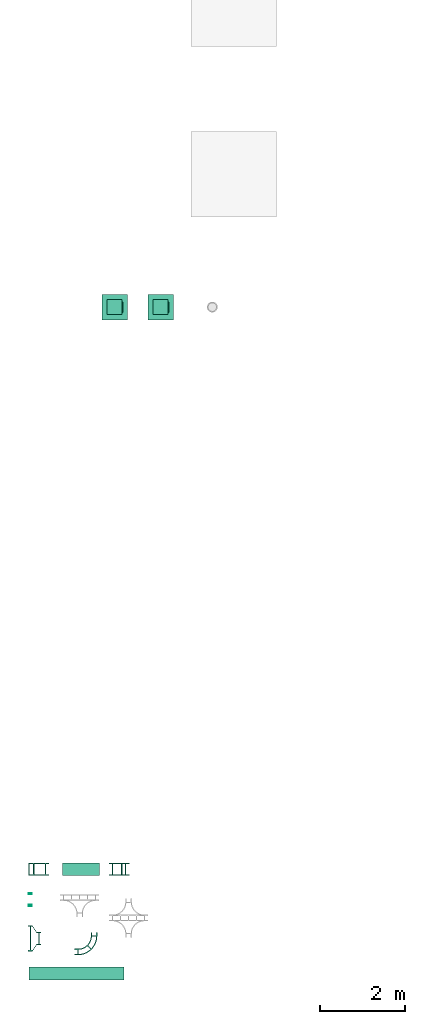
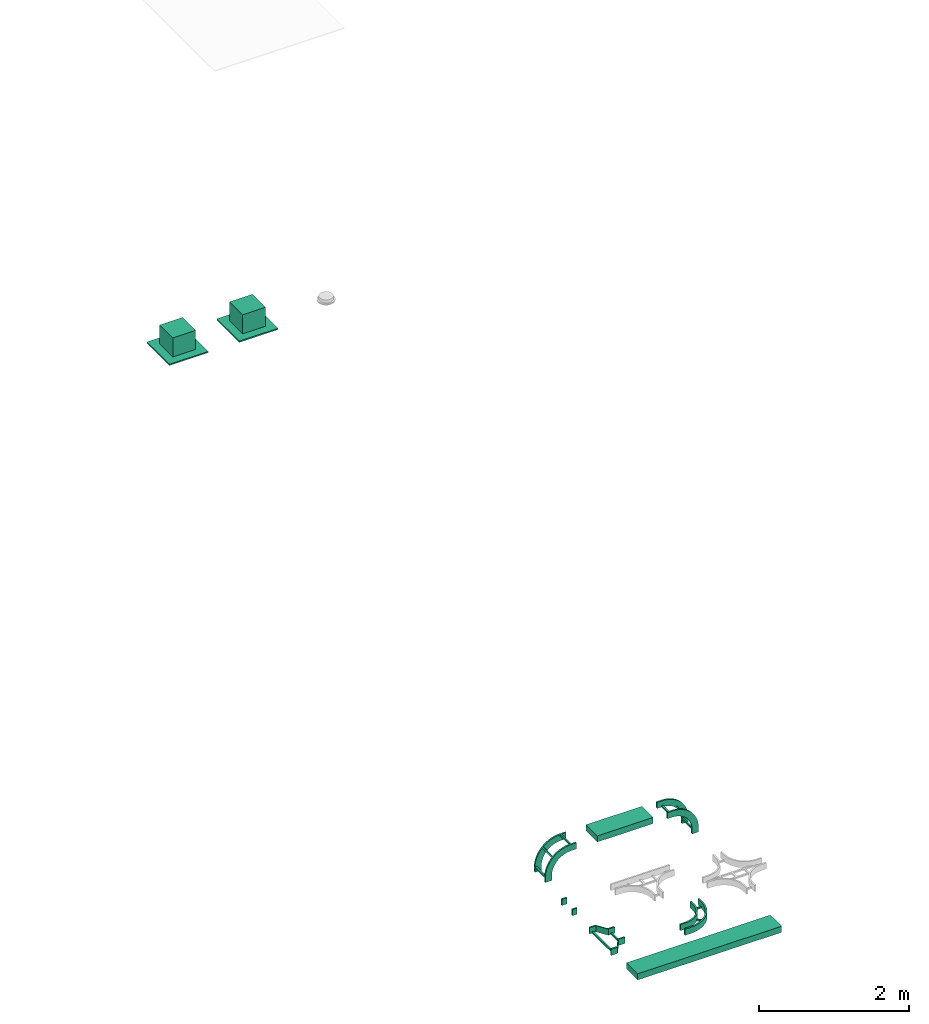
# One storey, part 11 of 14: 5 flow fittings, 2 flow segments, 2 flow terminals.
"""IFC2X3 building model written with IfcOpenShell, lengths in millimetres."""

from ifc_helpers import new_model, entity, si_unit, converted_unit, derived_unit, direction, frame, frame_2d, origin, origin_2d_with_axis, place, context, subcontext, project, spatial, polyline, circle_curve, parameter, trimmed, segment, composite_curve, rectangle, circle, outline, extrude, source, transform, mapped, type_object, type_shapes, element, save


model = new_model("IFC2X3")

# Units and contexts
model_context = context("Model", 3, precision=0.01, world=origin(), true_north=direction((6.12303176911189e-17, 1.0)))
context_of_model = context(None, 3, precision=0.01, world=origin(), true_north=direction((6.12303176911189e-17, 1.0)))
body_context = subcontext(model_context, "Body", "Model", "MODEL_VIEW")
ifc_project = project(units=[si_unit("LENGTHUNIT", "METRE", prefix="MILLI"), si_unit("AREAUNIT", "SQUARE_METRE"), si_unit("VOLUMEUNIT", "CUBIC_METRE"), converted_unit("PLANEANGLEUNIT", "DEGREE", entity("IfcRatioMeasure", 0.0174532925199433), si_unit("PLANEANGLEUNIT", "RADIAN"), dimensions=[0, 0, 0, 0, 0, 0, 0]), si_unit("MASSUNIT", "GRAM", prefix="KILO"), si_unit("TIMEUNIT", "SECOND"), si_unit("FREQUENCYUNIT", "HERTZ"), si_unit("THERMODYNAMICTEMPERATUREUNIT", "KELVIN"), derived_unit("THERMALTRANSMITTANCEUNIT", [(si_unit("MASSUNIT", "GRAM", prefix="KILO"), 1), (si_unit("THERMODYNAMICTEMPERATUREUNIT", "KELVIN"), -1), (si_unit("TIMEUNIT", "SECOND"), -3)]), derived_unit("VOLUMETRICFLOWRATEUNIT", [(si_unit("LENGTHUNIT", "METRE"), 3), (si_unit("TIMEUNIT", "SECOND"), -1)]), si_unit("ELECTRICCURRENTUNIT", "AMPERE"), si_unit("ELECTRICVOLTAGEUNIT", "VOLT"), si_unit("POWERUNIT", "WATT")], contexts=[model_context, context_of_model])

# Site, building, storey
site_placement = place(None, origin())
site = spatial("IfcSite", under=ifc_project, at=site_placement, Name="Surface", CompositionType="ELEMENT")
building_placement = place(site_placement, origin())
building = spatial("IfcBuilding", under=site, at=building_placement, CompositionType="ELEMENT")
storey_placement = place(building_placement, origin())
storey = spatial("IfcBuildingStorey", under=building, at=storey_placement, Name="00_begane grond", CompositionType="ELEMENT", Elevation=0.0)

# Flow terminal
air_terminal_type_1 = type_object("IfcAirTerminalType", Name="afvoer_plafondrooster_kanaaldiameter_250", PredefinedType="NOTDEFINED")
shared_shape_1 = source(origin(), body_context, "Body", "SweptSolid", [
    extrude(circle(Radius=125.0, at=frame_2d((3.80355707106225e-17, -2.03037586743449e-13), x_axis=(1.0, 0.0))), frame((175.0, 0.0, 175.0), z_axis=(1.0, 0.0, 0.0), x_axis=(0.0, 1.0, 0.0)), (0.0, 0.0, 1.0), 20.0000000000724),
    extrude(rectangle(XDim=350.0, YDim=350.0, at=origin_2d_with_axis()), frame((0.0, 0.0, 20.0), z_axis=(0.0, 0.0, 1.0), x_axis=(-1.0, 0.0, 0.0)), (0.0, 0.0, 1.0), 310.000000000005),
    extrude(rectangle(XDim=599.999999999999, YDim=600.000000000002, at=origin_2d_with_axis()), frame((0.0, 0.0, 0.0), z_axis=(0.0, 0.0, 1.0), x_axis=(-1.0, 0.0, 0.0)), (0.0, 0.0, 1.0), 19.9999999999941),
])
type_shapes(air_terminal_type_1, [shared_shape_1])
flow_terminal_1_placement = place(storey_placement, frame((2213.50653893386, -31370.8951915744, 0.0)))
element("IfcFlowTerminal", 1, at=flow_terminal_1_placement, inside=storey, type_object=air_terminal_type_1, Name="57_AT_plafondrooster_afv_rond_kanaal_FB:afvoer_plafondrooster_kanaaldiameter_250", ObjectType="afvoer_plafondrooster_kanaaldiameter_250", context=body_context, shape_type="MappedRepresentation", body=[
    mapped(shared_shape_1, transform((0.0, 0.0, 0.0), scale=1.0)),
])

# Flow segment
cable_carrier_segment_type_1 = type_object("IfcCableCarrierSegmentType", Name="Cable Tray with Fittings:61_CT_kabelgoot_open", PredefinedType="NOTDEFINED")
flow_segment_1_placement = place(storey_placement, frame((1000.0, -44678.0962466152, 442.420381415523)))
element("IfcFlowSegment", 2, at=flow_segment_1_placement, inside=storey, type_object=cable_carrier_segment_type_1, Name="Cable Tray with Fittings:61_CT_kabelgoot_open", ObjectType="Cable Tray with Fittings:61_CT_kabelgoot_open", context=body_context, shape_type="SweptSolid", body=[
    extrude(rectangle(XDim=860.0, YDim=300.000000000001, at=frame_2d((-5.6843418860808e-14, 0.0), x_axis=(1.0, 0.0))), frame((430.0, 150.0, 0.0)), (0.0, 0.0, 1.0), 100.0),
])

# Flow fittings
cable_carrier_fitting_type_1 = type_object("IfcCableCarrierFittingType", Name="bocht verticaal buiten, standaard", PredefinedType="NOTDEFINED")
shared_shape_2 = source(origin(), body_context, "Body", "SweptSolid", [
    extrude(rectangle(XDim=25.3999999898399, YDim=25.39999998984, at=frame_2d((0.0, 3.37507799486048e-14), x_axis=(1.0, 0.0))), frame((-37.3000000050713, -350.0, -124.600000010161)), (0.0, 0.0, 1.0), 249.20000002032),
    extrude(rectangle(XDim=25.3999999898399, YDim=25.39999998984, at=frame_2d((0.0, -1.24344978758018e-14), x_axis=(1.0, 0.0))), frame((-128.88770952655, -128.887709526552, -124.600000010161), z_axis=(0.0, 0.0, 1.0), x_axis=(0.707106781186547, 0.707106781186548, 0.0)), (0.0, 0.0, 1.0), 249.20000002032),
    extrude(rectangle(XDim=25.3999999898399, YDim=25.3999999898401, at=frame_2d((-1.77635683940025e-15, 3.37507799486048e-14), x_axis=(1.0, 0.0))), frame((-350.0, -37.3000000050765, -124.600000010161), z_axis=(0.0, 0.0, 1.0), x_axis=(0.0, -1.0, 0.0)), (0.0, 0.0, 1.0), 249.20000002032),
    extrude(outline(composite_curve([segment(polyline([(-245.0, -235.0), (-145.0, -235.0)]), True, "CONTINUOUS"), segment(polyline([(-145.0, -235.0), (-145.0, -155.0)]), True, "CONTINUOUS"), segment(trimmed(circle_curve(frame_2d((155.0, -155.0), x_axis=(-1.0, 0.0)), 300.0), [parameter(270.0)], [parameter(0.0)], True, "PARAMETER"), False, "CONTINUOUS"), segment(polyline([(155.0, 145.0), (235.0, 145.0)]), True, "CONTINUOUS"), segment(polyline([(235.0, 145.0), (235.0, 245.0)]), True, "CONTINUOUS"), segment(polyline([(235.0, 245.0), (155.0, 245.0)]), True, "CONTINUOUS"), segment(trimmed(circle_curve(frame_2d((155.0, -155.0), x_axis=(-1.0, 0.0)), 400.0), [parameter(270.0)], [parameter(0.0)], True, "PARAMETER"), True, "CONTINUOUS"), segment(polyline([(-245.0, -155.0), (-245.0, -235.0)]), True, "CONTINUOUS")], self_intersect=False)), frame((-195.0, -195.0, -150.0), z_axis=(0.0, 0.0, 1.0), x_axis=(0.0, -1.0, 0.0)), (0.0, 0.0, 1.0), 25.3999999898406),
    extrude(outline(composite_curve([segment(polyline([(-245.0, -235.0), (-145.0, -235.0)]), True, "CONTINUOUS"), segment(polyline([(-145.0, -235.0), (-145.0, -155.0)]), True, "CONTINUOUS"), segment(trimmed(circle_curve(frame_2d((155.0, -155.0), x_axis=(-1.0, 0.0)), 300.0), [parameter(270.0)], [parameter(0.0)], True, "PARAMETER"), False, "CONTINUOUS"), segment(polyline([(155.0, 145.0), (235.0, 145.0)]), True, "CONTINUOUS"), segment(polyline([(235.0, 145.0), (235.0, 245.0)]), True, "CONTINUOUS"), segment(polyline([(235.0, 245.0), (155.0, 245.0)]), True, "CONTINUOUS"), segment(trimmed(circle_curve(frame_2d((155.0, -155.0), x_axis=(-1.0, 0.0)), 400.0), [parameter(270.0)], [parameter(0.0)], True, "PARAMETER"), True, "CONTINUOUS"), segment(polyline([(-245.0, -155.0), (-245.0, -235.0)]), True, "CONTINUOUS")], self_intersect=False)), frame((-195.0, -195.0, 124.600000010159), z_axis=(0.0, 0.0, 1.0), x_axis=(0.0, -1.0, 0.0)), (0.0, 0.0, 1.0), 25.3999999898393),
])
type_shapes(cable_carrier_fitting_type_1, [shared_shape_2])
flow_fitting_1_placement = place(storey_placement, frame((2510.14957118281, -44528.0962466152, 492.420381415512), z_axis=(0.0, -1.0, 0.0), x_axis=(1.0, 0.0, 0.0)))
element("IfcFlowFitting", 3, at=flow_fitting_1_placement, inside=storey, type_object=cable_carrier_fitting_type_1, Name="61_CTF_kabelgoot_open_bocht_verticaal_buiten:bocht verticaal buiten, standaard", ObjectType="bocht verticaal buiten, standaard", context=body_context, shape_type="MappedRepresentation", body=[
    mapped(shared_shape_2, transform((0.0, 0.0, 0.0), scale=1.0)),
])
cable_carrier_fitting_type_2 = type_object("IfcCableCarrierFittingType", Name="bocht verticaal binnen, standaard", PredefinedType="NOTDEFINED")
shared_shape_3 = source(origin(), body_context, "Body", "SweptSolid", [
    extrude(rectangle(XDim=25.3999999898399, YDim=25.39999998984, at=origin_2d_with_axis()), frame((37.3000000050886, -350.0, -124.600000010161)), (0.0, 0.0, 1.0), 249.20000002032),
    extrude(rectangle(XDim=25.3999999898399, YDim=25.39999998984, at=frame_2d((7.105427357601e-15, -1.24344978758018e-14), x_axis=(1.0, 0.0))), frame((-76.1375436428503, -76.1375436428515, -124.600000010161), z_axis=(0.0, 0.0, 1.0), x_axis=(0.707106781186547, 0.707106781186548, 0.0)), (0.0, 0.0, 1.0), 249.20000002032),
    extrude(rectangle(XDim=25.3999999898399, YDim=25.3999999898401, at=frame_2d((0.0, 3.37507799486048e-14), x_axis=(1.0, 0.0))), frame((-350.0, 37.3000000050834, -124.600000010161), z_axis=(0.0, 0.0, 1.0), x_axis=(0.0, -1.0, 0.0)), (0.0, 0.0, 1.0), 249.20000002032),
    extrude(outline(composite_curve([segment(polyline([(-245.0, -235.0), (-145.0, -235.0)]), True, "CONTINUOUS"), segment(polyline([(-145.0, -235.0), (-145.0, -155.0)]), True, "CONTINUOUS"), segment(trimmed(circle_curve(frame_2d((155.0, -155.0), x_axis=(-1.0, 0.0)), 300.0), [parameter(270.0)], [parameter(0.0)], True, "PARAMETER"), False, "CONTINUOUS"), segment(polyline([(155.0, 145.0), (235.0, 145.0)]), True, "CONTINUOUS"), segment(polyline([(235.0, 145.0), (235.0, 245.0)]), True, "CONTINUOUS"), segment(polyline([(235.0, 245.0), (155.0, 245.0)]), True, "CONTINUOUS"), segment(trimmed(circle_curve(frame_2d((155.0, -155.0), x_axis=(-1.0, 0.0)), 400.0), [parameter(270.0)], [parameter(0.0)], True, "PARAMETER"), True, "CONTINUOUS"), segment(polyline([(-245.0, -155.0), (-245.0, -235.0)]), True, "CONTINUOUS")], self_intersect=False)), frame((-195.0, -195.0, -150.0), z_axis=(0.0, 0.0, 1.0), x_axis=(0.0, -1.0, 0.0)), (0.0, 0.0, 1.0), 25.3999999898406),
    extrude(outline(composite_curve([segment(polyline([(-245.0, -235.0), (-145.0, -235.0)]), True, "CONTINUOUS"), segment(polyline([(-145.0, -235.0), (-145.0, -155.0)]), True, "CONTINUOUS"), segment(trimmed(circle_curve(frame_2d((155.0, -155.0), x_axis=(-1.0, 0.0)), 300.0), [parameter(270.0)], [parameter(0.0)], True, "PARAMETER"), False, "CONTINUOUS"), segment(polyline([(155.0, 145.0), (235.0, 145.0)]), True, "CONTINUOUS"), segment(polyline([(235.0, 145.0), (235.0, 245.0)]), True, "CONTINUOUS"), segment(polyline([(235.0, 245.0), (155.0, 245.0)]), True, "CONTINUOUS"), segment(trimmed(circle_curve(frame_2d((155.0, -155.0), x_axis=(-1.0, 0.0)), 400.0), [parameter(270.0)], [parameter(0.0)], True, "PARAMETER"), True, "CONTINUOUS"), segment(polyline([(-245.0, -155.0), (-245.0, -235.0)]), True, "CONTINUOUS")], self_intersect=False)), frame((-195.0, -195.0, 124.600000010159), z_axis=(0.0, 0.0, 1.0), x_axis=(0.0, -1.0, 0.0)), (0.0, 0.0, 1.0), 25.3999999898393),
])
type_shapes(cable_carrier_fitting_type_2, [shared_shape_3])
flow_fitting_2_placement = place(storey_placement, frame((247.46114396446, -44528.0962466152, 492.420381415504), z_axis=(0.0, 1.0, 0.0), x_axis=(-1.0, 0.0, 0.0)))
element("IfcFlowFitting", 4, at=flow_fitting_2_placement, inside=storey, type_object=cable_carrier_fitting_type_2, Name="61_CTF_kabelgoot_open_bocht_verticaal_binnen:bocht verticaal binnen, standaard", ObjectType="bocht verticaal binnen, standaard", context=body_context, shape_type="MappedRepresentation", body=[
    mapped(shared_shape_3, transform((0.0, 0.0, 0.0), scale=1.0)),
])
cable_carrier_fitting_type_3 = type_object("IfcCableCarrierFittingType", Name="verbindingsstuk, standaard", PredefinedType="NOTDEFINED")
shared_shape_4 = source(origin(), body_context, "Body", "SweptSolid", [
    extrude(rectangle(XDim=75.000000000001, YDim=24.9999999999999, at=frame_2d((-1.17239551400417e-13, 7.99360577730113e-15), x_axis=(1.0, 0.0))), frame((37.500000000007, 137.499999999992, -50.0)), (0.0, 0.0, 1.0), 100.0),
    extrude(rectangle(XDim=75.000000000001, YDim=25.0000000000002, at=frame_2d((9.59232693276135e-14, 0.0), x_axis=(1.0, 0.0))), frame((37.5000000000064, -137.500000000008, -50.0)), (0.0, 0.0, 1.0), 100.0),
])
type_shapes(cable_carrier_fitting_type_3, [shared_shape_4])
flow_fitting_3_placement = place(storey_placement, frame((204.208115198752, -45238.8426915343, 0.0)))
element("IfcFlowFitting", 5, at=flow_fitting_3_placement, inside=storey, type_object=cable_carrier_fitting_type_3, Name="61_CTF_kabelgoot_open_verbinding:verbindingsstuk, standaard", ObjectType="verbindingsstuk, standaard", context=body_context, shape_type="MappedRepresentation", body=[
    mapped(shared_shape_4, transform((0.0, 0.0, 0.0), scale=1.0)),
])
cable_carrier_fitting_type_4 = type_object("IfcCableCarrierFittingType", Name="verloopstuk, standaard", PredefinedType="NOTDEFINED")
shared_shape_5 = source(origin(), body_context, "Body", "SweptSolid", [
    extrude(outline(polyline([(-150.0, -62.4999999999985), (-150.0, -87.4999999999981), (-50.0, -87.499999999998), (50.0, 62.5000000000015), (150.0, 62.4999999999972), (150.0, 87.499999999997), (50.0, 87.4999999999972), (-50.0, -62.4999999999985), (-150.0, -62.4999999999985)])), frame((150.0, 212.499999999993, -50.0), z_axis=(0.0, 0.0, -1.0), x_axis=(1.0, 0.0, 0.0)), (0.0, 0.0, -1.0), 100.0),
    extrude(outline(polyline([(-150.0, -87.5000000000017), (-50.0, -87.5000000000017), (50.0, 62.5000000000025), (150.0, 62.5000000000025), (150.0, 87.5000000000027), (50.0, 87.4999999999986), (-50.0, -62.5000000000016), (-150.0, -62.5000000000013), (-150.0, -87.5000000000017)])), frame((150.0, -212.500000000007, -50.0)), (0.0, 0.0, 1.0), 100.0),
    extrude(rectangle(XDim=250.0, YDim=25.0, at=origin_2d_with_axis()), frame((250.0, 0.0, -50.0), z_axis=(0.0, 0.0, 1.0), x_axis=(0.0, -1.0, 0.0)), (0.0, 0.0, 1.0), 24.9999999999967),
    extrude(rectangle(XDim=550.0, YDim=25.0, at=origin_2d_with_axis()), frame((50.0, 0.0, -50.0), z_axis=(0.0, 0.0, 1.0), x_axis=(0.0, -1.0, 0.0)), (0.0, 0.0, 1.0), 24.9999999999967),
])
type_shapes(cable_carrier_fitting_type_4, [shared_shape_5])
flow_fitting_4_placement = place(storey_placement, frame((192.388586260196, -46147.5301990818, 0.0)))
element("IfcFlowFitting", 6, at=flow_fitting_4_placement, inside=storey, type_object=cable_carrier_fitting_type_4, Name="61_CTF_kabelgoot_open_verloop:verloopstuk, standaard", ObjectType="verloopstuk, standaard", context=body_context, shape_type="MappedRepresentation", body=[
    mapped(shared_shape_5, transform((0.0, 0.0, 0.0), scale=1.0)),
])

# Flow segment
cable_carrier_segment_type_2 = type_object("IfcCableCarrierSegmentType", Name="Cable Tray without Fittings:61_CT_kabelgoot_open", PredefinedType="NOTDEFINED")
flow_segment_2_placement = place(storey_placement, frame((212.534108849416, -47119.2189369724, -50.0)))
element("IfcFlowSegment", 7, at=flow_segment_2_placement, inside=storey, type_object=cable_carrier_segment_type_2, Name="Cable Tray without Fittings:61_CT_kabelgoot_open", ObjectType="Cable Tray without Fittings:61_CT_kabelgoot_open", context=body_context, shape_type="SweptSolid", body=[
    extrude(rectangle(XDim=2220.0, YDim=300.000000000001, at=frame_2d((-1.13686837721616e-13, 4.33431068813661e-12), x_axis=(1.0, 0.0))), frame((1110.0, 150.0, 0.0)), (0.0, 0.0, 1.0), 100.0),
])

# Flow fitting
cable_carrier_fitting_type_5 = type_object("IfcCableCarrierFittingType", Name="bocht, standaard", PredefinedType="NOTDEFINED")
shared_shape_6 = source(origin(), body_context, "Body", "SweptSolid", [
    extrude(rectangle(XDim=100.0, YDim=25.0, at=frame_2d((-7.105427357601e-15, -3.46389583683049e-14), x_axis=(1.0, 0.0))), frame((0.0, 375.0, -50.0)), (0.0, 0.0, 1.0), 24.9999999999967),
    extrude(rectangle(XDim=99.9999999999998, YDim=25.0, at=origin_2d_with_axis()), frame((-375.0, 0.0, -50.0), z_axis=(0.0, 0.0, 1.0), x_axis=(0.0, -1.0, 0.0)), (0.0, 0.0, 1.0), 24.9999999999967),
    extrude(rectangle(XDim=100.0, YDim=25.0, at=frame_2d((-3.5527136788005e-15, -2.66453525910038e-15), x_axis=(1.0, 0.0))), frame((-109.834957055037, 109.834957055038, -50.0), z_axis=(0.0, 0.0, 1.0), x_axis=(0.707106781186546, -0.707106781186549, 0.0)), (0.0, 0.0, 1.0), 24.9999999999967),
    extrude(outline(composite_curve([segment(polyline([(-216.250000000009, -188.749999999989), (-136.250000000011, -188.749999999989)]), True, "CONTINUOUS"), segment(trimmed(circle_curve(frame_2d((-136.249999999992, 136.250000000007), x_axis=(0.0, -1.0)), 325.0), [parameter(0.0)], [parameter(90.0)], True, "PARAMETER"), True, "CONTINUOUS"), segment(polyline([(188.750000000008, 136.249999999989), (188.750000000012, 216.249999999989)]), True, "CONTINUOUS"), segment(polyline([(188.750000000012, 216.249999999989), (163.750000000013, 216.24999999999)]), True, "CONTINUOUS"), segment(polyline([(163.750000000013, 216.24999999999), (163.750000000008, 136.24999999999)]), True, "CONTINUOUS"), segment(trimmed(circle_curve(frame_2d((-136.249999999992, 136.250000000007), x_axis=(0.0, -1.0)), 300.0), [parameter(0.0)], [parameter(90.0)], True, "PARAMETER"), False, "CONTINUOUS"), segment(polyline([(-136.250000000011, -163.749999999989), (-216.250000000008, -163.749999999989)]), True, "CONTINUOUS"), segment(polyline([(-216.250000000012, -163.749999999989), (-216.250000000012, -188.749999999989)]), True, "CONTINUOUS")], self_intersect=False)), frame((-238.749999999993, 238.749999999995, -50.0)), (0.0, 0.0, 1.0), 100.0),
    extrude(outline(composite_curve([segment(polyline([(-278.750000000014, -251.249999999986), (-198.75000000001, -251.249999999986)]), True, "CONTINUOUS"), segment(trimmed(circle_curve(frame_2d((-198.74999999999, 198.75000000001), x_axis=(0.0, -1.0)), 450.0), [parameter(0.0)], [parameter(90.0)], True, "PARAMETER"), True, "CONTINUOUS"), segment(polyline([(251.25000000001, 198.749999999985), (251.250000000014, 278.749999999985)]), True, "CONTINUOUS"), segment(polyline([(251.250000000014, 278.749999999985), (226.250000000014, 278.749999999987)]), True, "CONTINUOUS"), segment(polyline([(226.250000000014, 278.749999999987), (226.25000000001, 198.749999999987)]), True, "CONTINUOUS"), segment(trimmed(circle_curve(frame_2d((-198.74999999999, 198.75000000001), x_axis=(0.0, -1.0)), 425.0), [parameter(0.0)], [parameter(90.0)], True, "PARAMETER"), False, "CONTINUOUS"), segment(polyline([(-198.75000000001, -226.249999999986), (-278.750000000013, -226.249999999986)]), True, "CONTINUOUS"), segment(polyline([(-278.75000000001, -226.249999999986), (-278.75000000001, -251.249999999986)]), True, "CONTINUOUS")], self_intersect=False)), frame((-176.249999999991, 176.249999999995, -50.0)), (0.0, 0.0, 1.0), 100.0),
])
type_shapes(cable_carrier_fitting_type_5, [shared_shape_6])
flow_fitting_5_placement = place(storey_placement, frame((1733.52885663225, -46462.2769124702, 0.0)))
element("IfcFlowFitting", 8, at=flow_fitting_5_placement, inside=storey, type_object=cable_carrier_fitting_type_5, Name="61_CTF_kabelgoot_open_bocht_horizontaal:bocht, standaard", ObjectType="bocht, standaard", context=body_context, shape_type="MappedRepresentation", body=[
    mapped(shared_shape_6, transform((0.0, 0.0, 0.0), scale=1.0)),
])

# Flow terminal
air_terminal_type_2 = type_object("IfcAirTerminalType", Name="aanvoer_plafondrooster_kanaaldiameter_250", PredefinedType="NOTDEFINED")
shared_shape_7 = source(origin(), body_context, "Body", "SweptSolid", [
    extrude(circle(Radius=125.0, at=frame_2d((3.80355707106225e-17, -2.03037586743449e-13), x_axis=(1.0, 0.0))), frame((175.0, 0.0, 175.0), z_axis=(1.0, 0.0, 0.0), x_axis=(0.0, 1.0, 0.0)), (0.0, 0.0, 1.0), 20.0000000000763),
    extrude(rectangle(XDim=350.0, YDim=350.0, at=origin_2d_with_axis()), frame((0.0, 0.0, 20.0), z_axis=(0.0, 0.0, 1.0), x_axis=(-1.0, 0.0, 0.0)), (0.0, 0.0, 1.0), 310.000000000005),
    extrude(rectangle(XDim=599.999999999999, YDim=600.000000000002, at=origin_2d_with_axis()), frame((0.0, 0.0, 0.0), z_axis=(0.0, 0.0, 1.0), x_axis=(-1.0, 0.0, 0.0)), (0.0, 0.0, 1.0), 19.9999999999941),
])
type_shapes(air_terminal_type_2, [shared_shape_7])
flow_terminal_2_placement = place(storey_placement, frame((3290.0226862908, -31370.8951915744, 0.0)))
element("IfcFlowTerminal", 9, at=flow_terminal_2_placement, inside=storey, type_object=air_terminal_type_2, Name="57_AT_plafondrooster_toev_rond_kanaal_FB:aanvoer_plafondrooster_kanaaldiameter_250", ObjectType="aanvoer_plafondrooster_kanaaldiameter_250", context=body_context, shape_type="MappedRepresentation", body=[
    mapped(shared_shape_7, transform((0.0, 0.0, 0.0), scale=1.0)),
])

save(model, "model.ifc")
